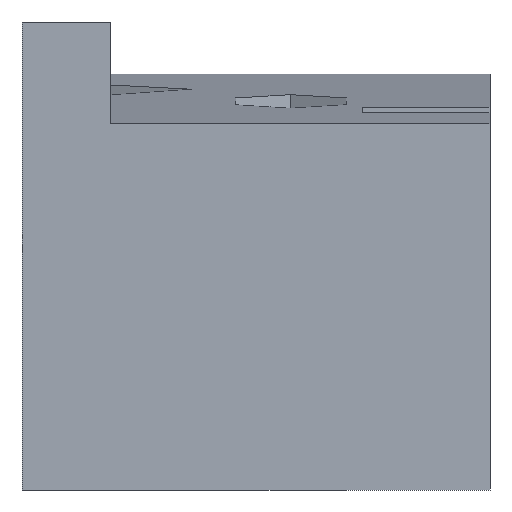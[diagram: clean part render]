
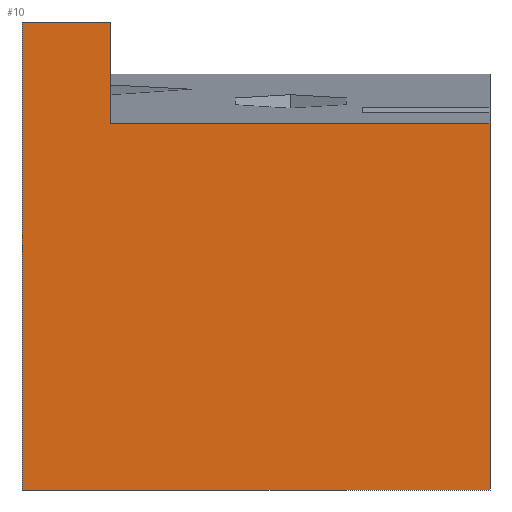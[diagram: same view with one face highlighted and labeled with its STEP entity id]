
A CAD part, left-side view. The second image highlights one B-rep face of the part: STEP entity #10.
In plain terms, the highlighted planar face has unit normal (-1, 0, 0).
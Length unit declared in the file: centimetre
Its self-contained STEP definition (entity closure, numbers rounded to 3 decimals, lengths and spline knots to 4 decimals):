
#10 = ADVANCED_FACE ( 'NONE', ( #124 ), #536, .F. ) ;
#55 = VECTOR ( 'NONE', #449, 100. ) ;
#86 = CARTESIAN_POINT ( 'NONE',  ( 0., 811.0273, 782.7344 ) ) ;
#105 = VECTOR ( 'NONE', #142, 100. ) ;
#112 = EDGE_LOOP ( 'NONE', ( #260, #603, #133, #141, #637, #618 ) ) ;
#124 = FACE_OUTER_BOUND ( 'NONE', #112, .T. ) ;
#129 = DIRECTION ( 'NONE',  ( 0., -1., 0. ) ) ;
#132 = DIRECTION ( 'NONE',  ( 0., 0., -1. ) ) ;
#133 = ORIENTED_EDGE ( 'NONE', *, *, #255, .F. ) ;
#141 = ORIENTED_EDGE ( 'NONE', *, *, #423, .F. ) ;
#142 = DIRECTION ( 'NONE',  ( 0., 0., -1. ) ) ;
#186 = EDGE_CURVE ( 'NONE', #541, #252, #668, .T. ) ;
#198 = VERTEX_POINT ( 'NONE', #664 ) ;
#206 = VERTEX_POINT ( 'NONE', #459 ) ;
#211 = CARTESIAN_POINT ( 'NONE',  ( 0., 0., 1000. ) ) ;
#222 = CARTESIAN_POINT ( 'NONE',  ( 0., 0., 0. ) ) ;
#252 = VERTEX_POINT ( 'NONE', #222 ) ;
#255 = EDGE_CURVE ( 'NONE', #198, #206, #832, .T. ) ;
#260 = ORIENTED_EDGE ( 'NONE', *, *, #604, .F. ) ;
#271 = CARTESIAN_POINT ( 'NONE',  ( 0., 1000., 1000. ) ) ;
#281 = LINE ( 'NONE', #86, #493 ) ;
#314 = VERTEX_POINT ( 'NONE', #695 ) ;
#335 = CARTESIAN_POINT ( 'NONE',  ( 0., 1000., 0. ) ) ;
#350 = CARTESIAN_POINT ( 'NONE',  ( 0., 811.0273, 782.7344 ) ) ;
#385 = CARTESIAN_POINT ( 'NONE',  ( 0., 1000., 1000. ) ) ;
#398 = EDGE_CURVE ( 'NONE', #455, #541, #519, .T. ) ;
#423 = EDGE_CURVE ( 'NONE', #455, #198, #721, .T. ) ;
#449 = DIRECTION ( 'NONE',  ( 0., 0., -1. ) ) ;
#455 = VERTEX_POINT ( 'NONE', #858 ) ;
#459 = CARTESIAN_POINT ( 'NONE',  ( 0., 811.0273, 782.7344 ) ) ;
#476 = AXIS2_PLACEMENT_3D ( 'NONE', #271, #732, #132 ) ;
#493 = VECTOR ( 'NONE', #811, 100. ) ;
#494 = VECTOR ( 'NONE', #690, 100. ) ;
#519 = LINE ( 'NONE', #385, #55 ) ;
#524 = CARTESIAN_POINT ( 'NONE',  ( 0., 1000., 1000. ) ) ;
#531 = DIRECTION ( 'NONE',  ( 0., -1., 0. ) ) ;
#536 = PLANE ( 'NONE',  #476 ) ;
#537 = EDGE_CURVE ( 'NONE', #206, #314, #281, .T. ) ;
#541 = VERTEX_POINT ( 'NONE', #335 ) ;
#603 = ORIENTED_EDGE ( 'NONE', *, *, #537, .F. ) ;
#604 = EDGE_CURVE ( 'NONE', #314, #252, #815, .T. ) ;
#618 = ORIENTED_EDGE ( 'NONE', *, *, #186, .T. ) ;
#637 = ORIENTED_EDGE ( 'NONE', *, *, #398, .T. ) ;
#649 = VECTOR ( 'NONE', #531, 100. ) ;
#664 = CARTESIAN_POINT ( 'NONE',  ( 0., 811.0273, 1000. ) ) ;
#668 = LINE ( 'NONE', #727, #796 ) ;
#690 = DIRECTION ( 'NONE',  ( 0., 0., -1. ) ) ;
#695 = CARTESIAN_POINT ( 'NONE',  ( 0., 0., 782.7344 ) ) ;
#721 = LINE ( 'NONE', #524, #649 ) ;
#727 = CARTESIAN_POINT ( 'NONE',  ( 0., 1000., 0. ) ) ;
#732 = DIRECTION ( 'NONE',  ( 1., 0., 0. ) ) ;
#796 = VECTOR ( 'NONE', #129, 100. ) ;
#811 = DIRECTION ( 'NONE',  ( 0., -1., 0. ) ) ;
#815 = LINE ( 'NONE', #211, #105 ) ;
#832 = LINE ( 'NONE', #350, #494 ) ;
#858 = CARTESIAN_POINT ( 'NONE',  ( 0., 1000., 1000. ) ) ;
